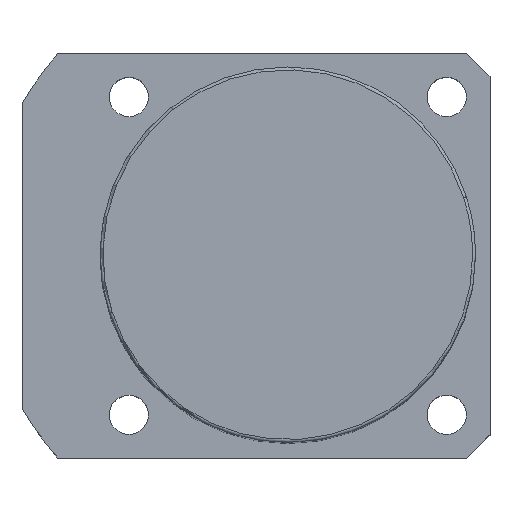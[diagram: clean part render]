
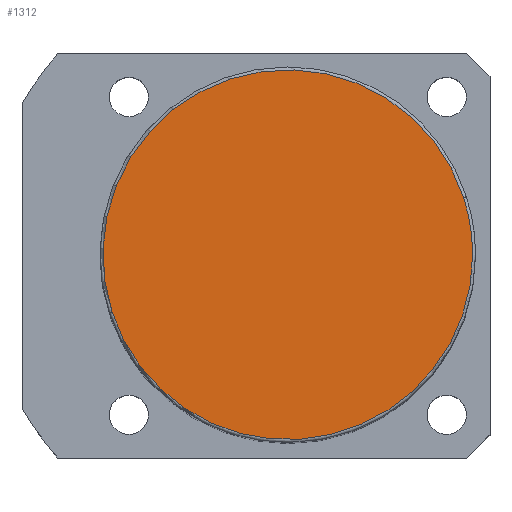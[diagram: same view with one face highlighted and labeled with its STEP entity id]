
A CAD part, top view. The second image highlights one B-rep face of the part: STEP entity #1312.
In plain terms, the highlighted planar face has unit normal (0, 0, 1).
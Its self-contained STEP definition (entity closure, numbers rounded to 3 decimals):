
#1278=CARTESIAN_POINT('',(32.0,0.0,126.0));
#1279=VERTEX_POINT('',#1278);
#1280=CARTESIAN_POINT('',(30.434,9.889,126.0));
#1281=VERTEX_POINT('',#1280);
#1282=CARTESIAN_POINT('',(0.0,0.0,126.0));
#1283=DIRECTION('',(0.0,0.0,1.0));
#1284=DIRECTION('',(1.0,0.0,0.0));
#1285=AXIS2_PLACEMENT_3D('',#1282,#1283,#1284);
#1286=CIRCLE('',#1285,32.0);
#1287=EDGE_CURVE('no 1820',#1279,#1281,#1286,.T.);
#1288=ORIENTED_EDGE('',*,*,#1287,.T.);
#1289=CARTESIAN_POINT('',(-30.434,-9.889,126.0));
#1290=VERTEX_POINT('',#1289);
#1291=CARTESIAN_POINT('',(0.0,0.0,126.0));
#1292=DIRECTION('',(0.0,0.0,1.0));
#1293=DIRECTION('',(1.0,0.0,0.0));
#1294=AXIS2_PLACEMENT_3D('',#1291,#1292,#1293);
#1295=CIRCLE('',#1294,32.0);
#1296=EDGE_CURVE('no 1826',#1281,#1290,#1295,.T.);
#1297=ORIENTED_EDGE('',*,*,#1296,.T.);
#1298=CARTESIAN_POINT('',(0.0,0.0,126.0));
#1299=DIRECTION('',(0.0,0.0,1.0));
#1300=DIRECTION('',(1.0,0.0,0.0));
#1301=AXIS2_PLACEMENT_3D('',#1298,#1299,#1300);
#1302=CIRCLE('',#1301,32.0);
#1303=EDGE_CURVE('no 1830',#1290,#1279,#1302,.T.);
#1304=ORIENTED_EDGE('',*,*,#1303,.T.);
#1305=EDGE_LOOP('',(#1288,#1297,#1304));
#1306=FACE_OUTER_BOUND('',#1305,.T.);
#1307=CARTESIAN_POINT('',(0.0,0.0,126.0));
#1308=DIRECTION('',(0.0,0.0,1.0));
#1309=DIRECTION('',(1.0,0.0,0.0));
#1310=AXIS2_PLACEMENT_3D('',#1307,#1308,#1309);
#1311=PLANE('',#1310);
#1312=ADVANCED_FACE('no 1811',(#1306),#1311,.T.);
